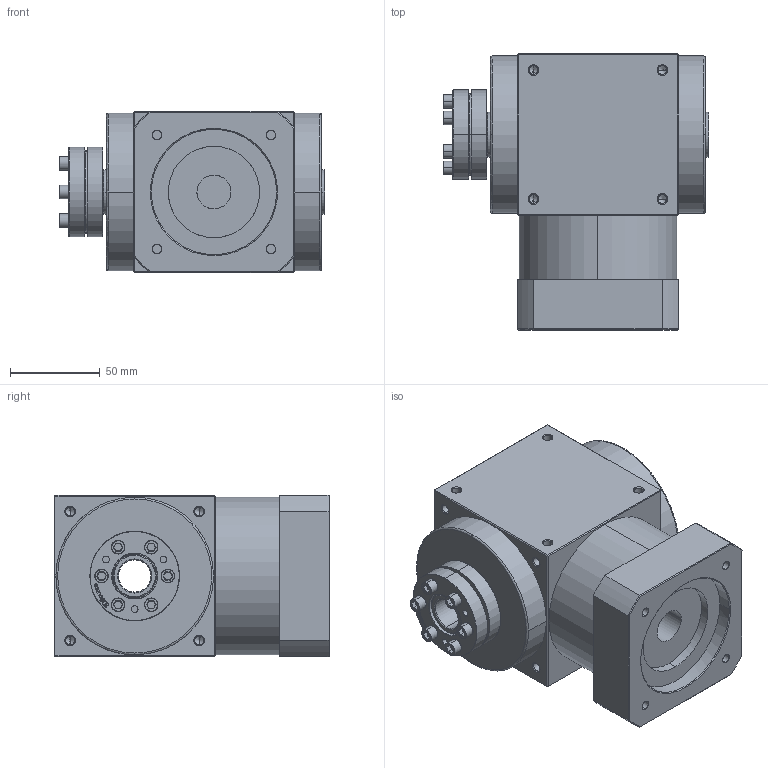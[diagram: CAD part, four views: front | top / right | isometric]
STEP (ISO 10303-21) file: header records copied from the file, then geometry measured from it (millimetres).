
FILE_DESCRIPTION (( 'STEP AP214' ), '1' );
FILE_NAME ('AT090-FC-L-001 19-70-90-M6.STEP', '2022-09-29T01:29:27', ( 'Admin' ), ( '' ), 'SwSTEP 2.0', 'SolidWorks 2018', '' );
FILE_SCHEMA (( 'AUTOMOTIVE_DESIGN' ));
Length unit declared in the file: millimetre
Products named in the file (13): 83_24x50_2; 83_24x50_4; 83_24x50_5; 83_24x50_3; AT090-FC-L-001 19-70-90-M6; AT090-FC-001--19-70-90-M5; 83_24x50; 83_24x50_6; 83_24x50_7; 83_24x50_10; 83_24x50_9; 83_24x50_8
Assembly tree (12 placements, depth 3):
  AT090-FC-L-001 19-70-90-M6
    AT090-FC-001--19-70-90-M5
    83_24x50
      83_24x50_8
      83_24x50_2
      83_24x50_7
      83_24x50_6
      83_24x50_9
      83_24x50_3
      83_24x50_10
      83_24x50_5
      83_24x50_4
      83_24x50
Bounding box: 148.5 x 154 x 90 mm (x, y, z)
Volume: 1295572.2 mm3; surface area: 114791 mm2
Topology: 11 solids, 11 shells, 654 faces, 1572 edges, 930 vertices
Faces by surface type: cylinder 279, cone 170, plane 157, bspline 48
Entity records: 29854 total; most frequent: CARTESIAN_POINT 7776, ORIENTED_EDGE 3064, DIRECTION 3040, EDGE_CURVE 1532, AXIS2_PLACEMENT_3D 1162, VERTEX_POINT 930, EDGE_LOOP 748, LINE 716
